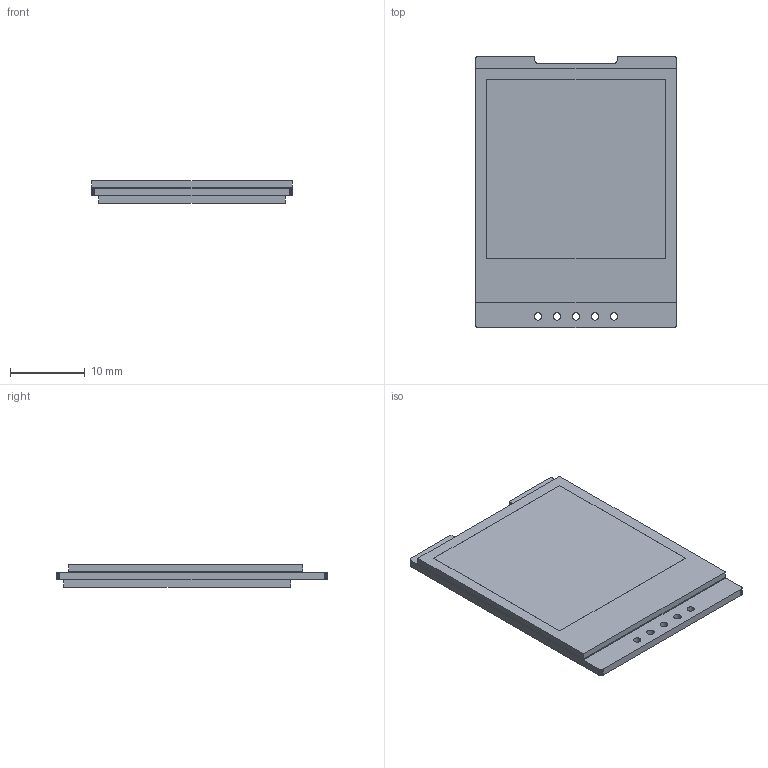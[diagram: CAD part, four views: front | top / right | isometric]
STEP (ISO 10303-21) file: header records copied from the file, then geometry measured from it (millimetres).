
FILE_DESCRIPTION(('FreeCAD Model'),'2;1');
FILE_NAME('Open CASCADE Shape Model','2026-11-01T13:57:21',('Author'),( ''),'Open CASCADE STEP processor 7.8','FreeCAD','Unknown');
FILE_SCHEMA(('AUTOMOTIVE_DESIGN { 1 0 10303 214 1 1 1 1 }'));
Length unit declared in the file: millimetre
Products named in the file (11): ColorView_NoEars; ColorViewPCB; UndersideClearanceEnvelope; Adhesive; DisplayBezel; DisplaySurface; Contact1; Contact2; Contact3; Contact4; Contact5
Assembly tree (10 placements, depth 2):
  ColorView_NoEars
    ColorViewPCB
    UndersideClearanceEnvelope
    Adhesive
    DisplayBezel
    DisplaySurface
    Contact1
    Contact2
    Contact3
    Contact4
    Contact5
Bounding box: 26.99 x 36.34 x 3 mm (x, y, z)
Volume: 2563.8 mm3; surface area: 8327.7 mm2
Topology: 10 solids, 10 shells, 139 faces, 354 edges, 236 vertices
Faces by surface type: plane 125, cylinder 14
Full cylindrical faces by diameter (mm): 1 x10, 1.7 x4
Entity records: 4434 total; most frequent: CARTESIAN_POINT 740, ORIENTED_EDGE 708, DIRECTION 682, EDGE_CURVE 354, LINE 326, VECTOR 326, VERTEX_POINT 236, AXIS2_PLACEMENT_3D 178
